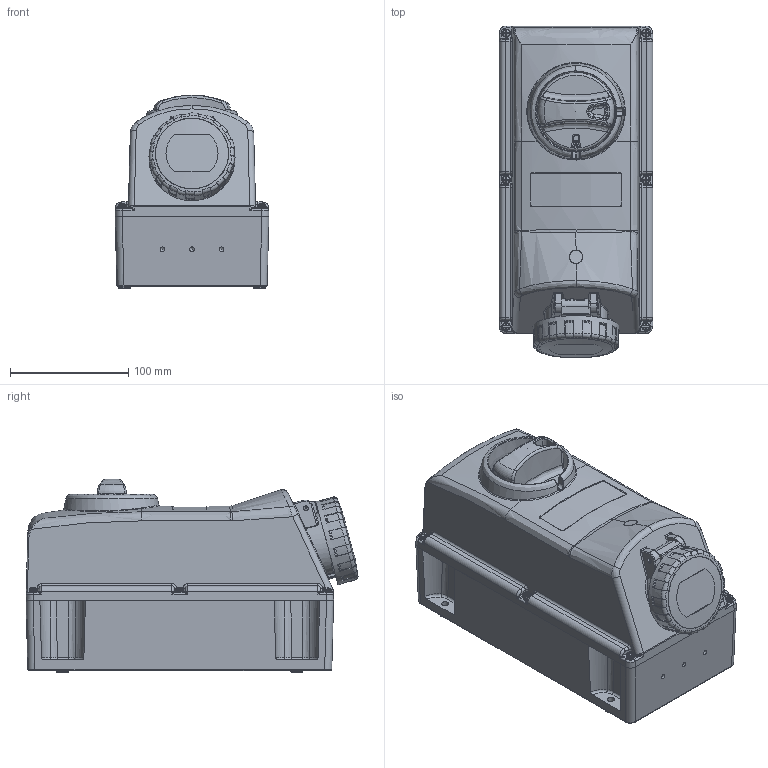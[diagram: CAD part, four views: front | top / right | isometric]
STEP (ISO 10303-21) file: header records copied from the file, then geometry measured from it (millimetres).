
FILE_DESCRIPTION(/* description */ (''),/* implementation_level */ '2;1');
FILE_NAME(/* name */ '4004895.stp',/* time_stamp */ '2019-11-06T08:07:50+01:00',/* author */ (''),/* organization */ (''),/* preprocessor_version */ 'ST-DEVELOPER v16.7',/* originating_system */ 'SIEMENS PLM Software NX 1888',/* authorisation */ '');
FILE_SCHEMA (('AUTOMOTIVE_DESIGN { 1 0 10303 214 3 1 1 1 }'));
Products named in the file (1): BSOM619C02EDjd76
Bounding box: 130 x 280.66 x 163.84 mm (x, y, z)
Volume: 1123396.1 mm3; surface area: 421208.9 mm2
Topology: 19 solids, 20 shells, 4129 faces, 10031 edges, 5986 vertices
Faces by surface type: plane 1263, bspline 1223, cylinder 865, torus 307, cone 288, sphere 139, revolution 44
Full cylindrical faces by diameter (mm): 2 x1, 2.5 x2, 3 x10, 4 x9, 4.1 x2, 4.3 x2, 5.5 x6, 6 x4, 6.019 x12, 6.8 x6, 40.26 x1, 43.4 x1, 62.1 x1, 66.75 x1
Entity records: 167239 total; most frequent: CARTESIAN_POINT 80379, ORIENTED_EDGE 19282, DIRECTION 16009, EDGE_CURVE 9641, AXIS2_PLACEMENT_3D 6244, VERTEX_POINT 5858, EDGE_LOOP 4475, ADVANCED_FACE 4129
